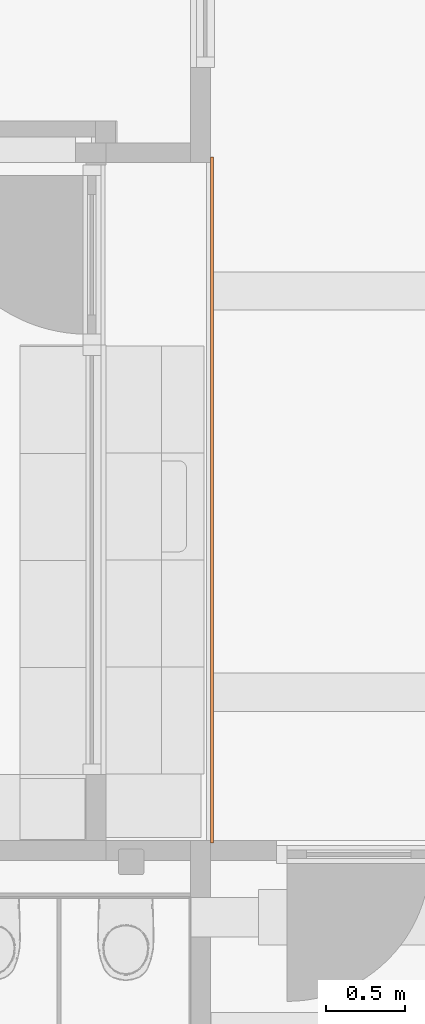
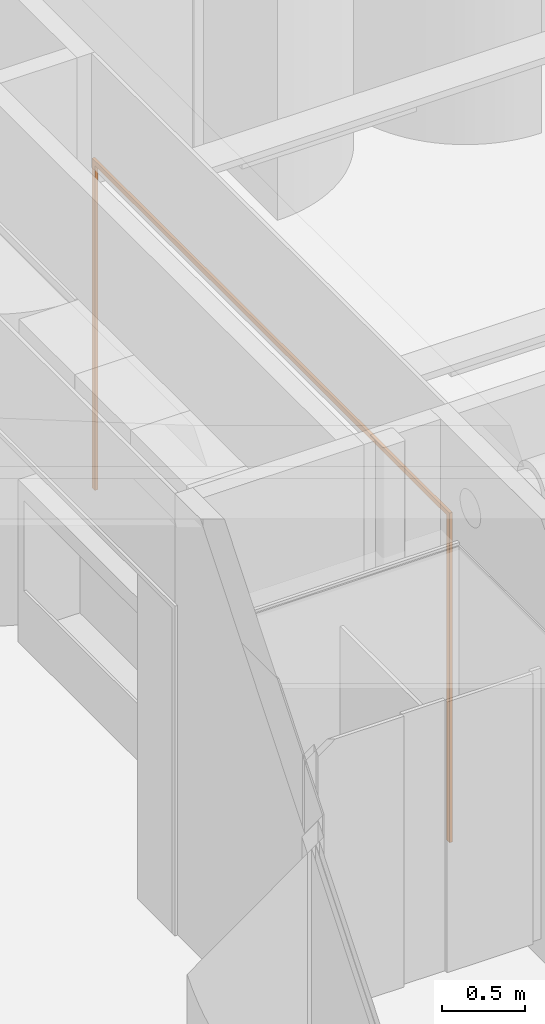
# One storey, part 102 of 128: 1 proxy.
"""IFC2X3 building model written with IfcOpenShell, lengths in millimetres."""

from ifc_helpers import new_model, entity, si_unit, converted_unit, derived_unit, direction, frame, frame_2d, origin, origin_2d_with_axis, place, context, subcontext, project, spatial, rectangle, extrude, source, transform, mapped, material, type_object, type_shapes, element, save


model = new_model("IFC2X3")

# Units and contexts
model_context = context("Model", 3, precision=0.01, world=origin(), true_north=direction((6.123031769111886e-17, 1.0)))
body_context = subcontext(model_context, "Body", "Model", "MODEL_VIEW")
ifc_project = project(units=[si_unit("LENGTHUNIT", "METRE", prefix="MILLI"), si_unit("AREAUNIT", "SQUARE_METRE"), si_unit("VOLUMEUNIT", "CUBIC_METRE"), converted_unit("PLANEANGLEUNIT", "DEGREE", entity("IfcRatioMeasure", 0.017453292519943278), si_unit("PLANEANGLEUNIT", "RADIAN"), dimensions=[0, 0, 0, 0, 0, 0, 0]), si_unit("MASSUNIT", "GRAM", prefix="KILO"), derived_unit("MASSDENSITYUNIT", [(si_unit("MASSUNIT", "GRAM", prefix="KILO"), 1), (si_unit("LENGTHUNIT", "METRE"), -3)]), derived_unit("IONCONCENTRATIONUNIT", [(si_unit("MASSUNIT", "GRAM", prefix="KILO"), 1), (si_unit("LENGTHUNIT", "METRE"), -3)]), derived_unit("MOMENTOFINERTIAUNIT", [(si_unit("LENGTHUNIT", "METRE"), 4)]), si_unit("TIMEUNIT", "SECOND"), si_unit("FREQUENCYUNIT", "HERTZ"), si_unit("THERMODYNAMICTEMPERATUREUNIT", "DEGREE_CELSIUS"), derived_unit("THERMALTRANSMITTANCEUNIT", [(si_unit("MASSUNIT", "GRAM", prefix="KILO"), 1), (si_unit("THERMODYNAMICTEMPERATUREUNIT", "KELVIN"), -1), (si_unit("TIMEUNIT", "SECOND"), -3)]), derived_unit("THERMALCONDUCTANCEUNIT", [(si_unit("MASSUNIT", "GRAM", prefix="KILO"), 1), (si_unit("THERMODYNAMICTEMPERATUREUNIT", "KELVIN"), -1), (si_unit("TIMEUNIT", "SECOND"), -3), (si_unit("LENGTHUNIT", "METRE"), 1)]), derived_unit("VOLUMETRICFLOWRATEUNIT", [(si_unit("LENGTHUNIT", "METRE"), 3), (si_unit("TIMEUNIT", "SECOND"), -1)]), derived_unit("MASSFLOWRATEUNIT", [(si_unit("MASSUNIT", "GRAM", prefix="KILO"), 1), (si_unit("TIMEUNIT", "SECOND"), -1)]), derived_unit("ROTATIONALFREQUENCYUNIT", [(si_unit("TIMEUNIT", "SECOND"), -1)]), si_unit("ELECTRICCURRENTUNIT", "AMPERE"), si_unit("ELECTRICVOLTAGEUNIT", "VOLT"), si_unit("POWERUNIT", "WATT"), si_unit("FORCEUNIT", "NEWTON", prefix="KILO"), si_unit("ILLUMINANCEUNIT", "LUX"), si_unit("LUMINOUSFLUXUNIT", "LUMEN"), si_unit("LUMINOUSINTENSITYUNIT", "CANDELA"), derived_unit("USERDEFINED", [(si_unit("MASSUNIT", "GRAM", prefix="KILO"), -1), (si_unit("LENGTHUNIT", "METRE"), -2), (si_unit("TIMEUNIT", "SECOND"), 3), (si_unit("LUMINOUSFLUXUNIT", "LUMEN"), 1)]), derived_unit("USERDEFINED", [(si_unit("MASSUNIT", "GRAM", prefix="KILO"), 1), (si_unit("TIMEUNIT", "SECOND"), -3), (si_unit("LENGTHUNIT", "METRE"), 3), (si_unit("ELECTRICCURRENTUNIT", "AMPERE"), -2)]), derived_unit("SOUNDPOWERUNIT", [(si_unit("MASSUNIT", "GRAM", prefix="KILO"), 1), (si_unit("TIMEUNIT", "SECOND"), -3), (si_unit("LENGTHUNIT", "METRE"), 2)]), derived_unit("SOUNDPRESSUREUNIT", [(si_unit("MASSUNIT", "GRAM", prefix="KILO"), 1), (si_unit("LENGTHUNIT", "METRE"), -1), (si_unit("TIMEUNIT", "SECOND"), -2)]), derived_unit("LINEARVELOCITYUNIT", [(si_unit("LENGTHUNIT", "METRE"), 1), (si_unit("TIMEUNIT", "SECOND"), -1)]), si_unit("PRESSUREUNIT", "PASCAL"), derived_unit("USERDEFINED", [(si_unit("MASSUNIT", "GRAM", prefix="KILO"), 1), (si_unit("LENGTHUNIT", "METRE"), -2), (si_unit("TIMEUNIT", "SECOND"), -2)]), derived_unit("LINEARFORCEUNIT", [(si_unit("MASSUNIT", "GRAM", prefix="KILO"), 1), (si_unit("TIMEUNIT", "SECOND"), -2)]), derived_unit("PLANARFORCEUNIT", [(si_unit("MASSUNIT", "GRAM", prefix="KILO"), 1), (si_unit("LENGTHUNIT", "METRE"), -1), (si_unit("TIMEUNIT", "SECOND"), -2)]), derived_unit("SPECIFICHEATCAPACITYUNIT", [(si_unit("THERMODYNAMICTEMPERATUREUNIT", "KELVIN"), -1), (si_unit("LENGTHUNIT", "METRE"), 2), (si_unit("TIMEUNIT", "SECOND"), -2)]), derived_unit("HEATINGVALUEUNIT", [(si_unit("LENGTHUNIT", "METRE"), 2), (si_unit("TIMEUNIT", "SECOND"), -2)]), derived_unit("VAPORPERMEABILITYUNIT", [(si_unit("LENGTHUNIT", "METRE"), -1), (si_unit("TIMEUNIT", "SECOND"), 1)]), derived_unit("DYNAMICVISCOSITYUNIT", [(si_unit("MASSUNIT", "GRAM", prefix="KILO"), 1), (si_unit("TIMEUNIT", "SECOND"), -1), (si_unit("LENGTHUNIT", "METRE"), -1)]), derived_unit("THERMALEXPANSIONCOEFFICIENTUNIT", [(si_unit("THERMODYNAMICTEMPERATUREUNIT", "KELVIN"), -1)]), derived_unit("MODULUSOFELASTICITYUNIT", [(si_unit("MASSUNIT", "GRAM", prefix="KILO"), 1), (si_unit("LENGTHUNIT", "METRE"), -1), (si_unit("TIMEUNIT", "SECOND"), -2)]), derived_unit("ISOTHERMALMOISTURECAPACITYUNIT", [(si_unit("LENGTHUNIT", "METRE"), 3), (si_unit("MASSUNIT", "GRAM", prefix="KILO"), -1)]), derived_unit("MOISTUREDIFFUSIVITYUNIT", [(si_unit("TIMEUNIT", "SECOND"), -1), (si_unit("LENGTHUNIT", "METRE"), 2)])], contexts=[model_context])

# Site, building, storey, space
site_placement = place(None, frame((0.0, 300.0, 0.0)))
site = spatial("IfcSite", under=ifc_project, at=site_placement, Name="<Kadastrale nummers>", CompositionType="ELEMENT")
building_placement = place(site_placement, origin())
building = spatial("IfcBuilding", under=site, at=building_placement, CompositionType="ELEMENT")
storey_placement = place(building_placement, frame((0.0, 0.0, 3560.0000331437)))
storey = spatial("IfcBuildingStorey", under=building, at=storey_placement, Name="01 eerste verdieping", CompositionType="ELEMENT", Elevation=3560.0000331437)
space_placement = place(storey_placement, origin())
space = spatial("IfcSpace", under=storey, at=space_placement, Name="1.22", CompositionType="ELEMENT", InteriorOrExteriorSpace="INTERNAL")

# Proxy
ifc_material = material(Name="ISR_HPL Kleur hout")
building_element_proxy_type = type_object("IfcBuildingElementProxyType", Name="82_DAT_Trimlat om element:82_DAT_Trimlat om element", PredefinedType="NOTDEFINED", material=ifc_material)
shared_shape = source(origin(), body_context, "Body", "SweptSolid", [
    extrude(rectangle(XDim=35.0, YDim=19.999999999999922, at=frame_2d((-1.7763568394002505e-15, 0.0), x_axis=(1.0, 0.0))), frame((-17.500000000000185, 10.0, 0.0), z_axis=(0.0, 0.0, 1.0), x_axis=(-1.0, 0.0, 0.0)), (0.0, 0.0, 1.0), 2400.000000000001),
    extrude(rectangle(XDim=34.99999999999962, YDim=20.000000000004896, at=origin_2d_with_axis()), frame((4272.499999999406, 10.0, 0.0), z_axis=(0.0, 0.0, 1.0), x_axis=(-1.0, 0.0, 0.0)), (0.0, 0.0, 1.0), 2400.000000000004),
    extrude(rectangle(XDim=4324.999999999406, YDim=19.99999999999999, at=origin_2d_with_axis()), frame((2127.499999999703, 10.0, 2400.0), z_axis=(0.0, 0.0, 1.0), x_axis=(-1.0, 0.0, 0.0)), (0.0, 0.0, 1.0), 34.99999999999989),
])
type_shapes(building_element_proxy_type, [shared_shape])
proxy_placement = place(space_placement, frame((41899.9933982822, 20909.99724655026, 90.00000187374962), z_axis=(0.0, 0.0, 1.0), x_axis=(0.0, -1.0, 0.0)))
element("IfcBuildingElementProxy", 1, at=proxy_placement, inside=space, type_object=building_element_proxy_type, material=ifc_material, Name="82_DAT_Trimlat om element:82_DAT_Trimlat om element", ObjectType="82_DAT_Trimlat om element:82_DAT_Trimlat om element", context=body_context, shape_type="MappedRepresentation", body=[
    mapped(shared_shape, transform((0.0, 0.0, 0.0), scale=1.0)),
])

save(model, "model.ifc")
